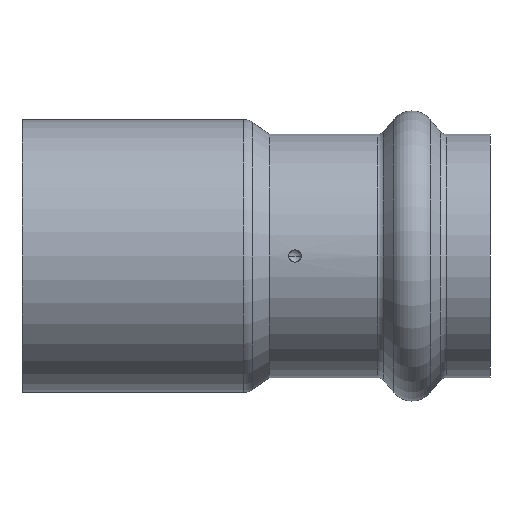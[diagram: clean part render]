
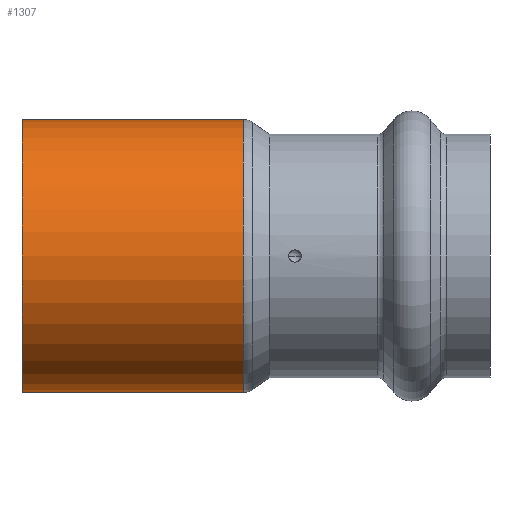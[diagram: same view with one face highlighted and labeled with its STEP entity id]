
A CAD part, front view. The second image highlights one B-rep face of the part: STEP entity #1307.
In plain terms, the highlighted cylindrical face has radius 17.5 mm (diameter 35 mm), a partial arc.
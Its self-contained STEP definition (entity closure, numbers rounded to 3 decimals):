
#45 = AXIS2_PLACEMENT_3D ( 'NONE', #1374, #571, #1263 ) ;
#67 = CARTESIAN_POINT ( 'NONE',  ( 0., 0., 17.5 ) ) ;
#97 = FACE_OUTER_BOUND ( 'NONE', #884, .T. ) ;
#289 = VECTOR ( 'NONE', #423, 1000. ) ;
#316 = CARTESIAN_POINT ( 'NONE',  ( 28.369, 0., 17.5 ) ) ;
#322 = LINE ( 'NONE', #1266, #289 ) ;
#330 = EDGE_CURVE ( 'NONE', #1074, #1151, #1448, .T. ) ;
#341 = DIRECTION ( 'NONE',  ( 0., 0., 1. ) ) ;
#349 = DIRECTION ( 'NONE',  ( -1., 0., 0. ) ) ;
#391 = CARTESIAN_POINT ( 'NONE',  ( -4.079, 0., 0. ) ) ;
#417 = ORIENTED_EDGE ( 'NONE', *, *, #422, .F. ) ;
#422 = EDGE_CURVE ( 'NONE', #974, #1151, #456, .T. ) ;
#423 = DIRECTION ( 'NONE',  ( -1., 0., 0. ) ) ;
#451 = ORIENTED_EDGE ( 'NONE', *, *, #749, .T. ) ;
#456 = CIRCLE ( 'NONE', #1117, 17.5 ) ;
#483 = DIRECTION ( 'NONE',  ( -1., 0., 0. ) ) ;
#511 = AXIS2_PLACEMENT_3D ( 'NONE', #391, #349, #341 ) ;
#538 = CARTESIAN_POINT ( 'NONE',  ( 0., 0., -17.5 ) ) ;
#567 = VERTEX_POINT ( 'NONE', #1175 ) ;
#571 = DIRECTION ( 'NONE',  ( -1., 0., 0. ) ) ;
#598 = EDGE_CURVE ( 'NONE', #567, #974, #322, .T. ) ;
#749 = EDGE_CURVE ( 'NONE', #567, #1074, #1003, .T. ) ;
#808 = DIRECTION ( 'NONE',  ( -1., 0., 0. ) ) ;
#864 = VECTOR ( 'NONE', #483, 1000. ) ;
#884 = EDGE_LOOP ( 'NONE', ( #1082, #451, #1348, #417 ) ) ;
#974 = VERTEX_POINT ( 'NONE', #538 ) ;
#1000 = CYLINDRICAL_SURFACE ( 'NONE', #511, 17.5 ) ;
#1003 = CIRCLE ( 'NONE', #45, 17.5 ) ;
#1074 = VERTEX_POINT ( 'NONE', #316 ) ;
#1082 = ORIENTED_EDGE ( 'NONE', *, *, #598, .F. ) ;
#1117 = AXIS2_PLACEMENT_3D ( 'NONE', #1474, #808, #1372 ) ;
#1151 = VERTEX_POINT ( 'NONE', #67 ) ;
#1175 = CARTESIAN_POINT ( 'NONE',  ( 28.369, 0., -17.5 ) ) ;
#1263 = DIRECTION ( 'NONE',  ( 0., 0., -1. ) ) ;
#1266 = CARTESIAN_POINT ( 'NONE',  ( -4.079, 0., -17.5 ) ) ;
#1303 = CARTESIAN_POINT ( 'NONE',  ( -4.079, 0., 17.5 ) ) ;
#1307 = ADVANCED_FACE ( 'NONE', ( #97 ), #1000, .T. ) ;
#1348 = ORIENTED_EDGE ( 'NONE', *, *, #330, .T. ) ;
#1372 = DIRECTION ( 'NONE',  ( 0., 0., 1. ) ) ;
#1374 = CARTESIAN_POINT ( 'NONE',  ( 28.369, 0., 0. ) ) ;
#1448 = LINE ( 'NONE', #1303, #864 ) ;
#1474 = CARTESIAN_POINT ( 'NONE',  ( 0., 0., 0. ) ) ;
